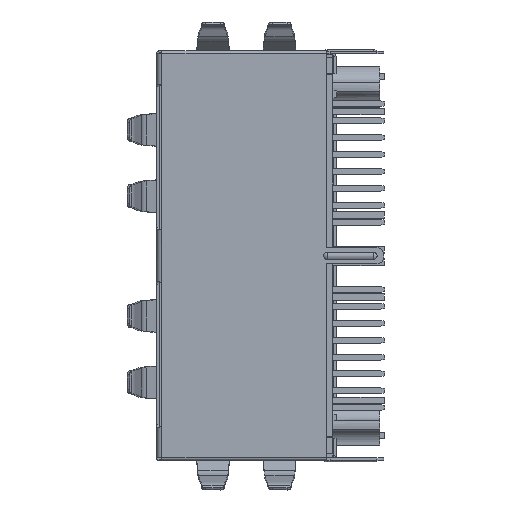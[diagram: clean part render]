
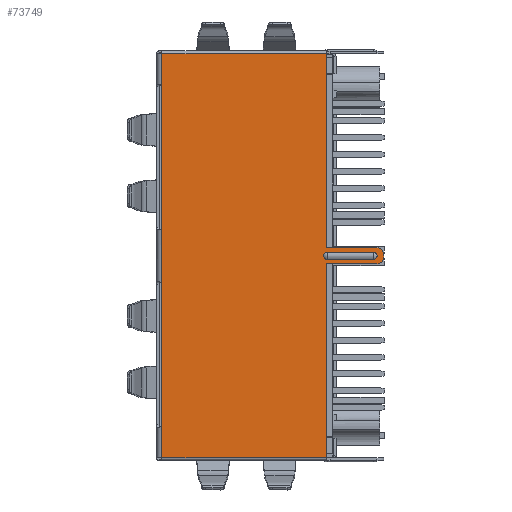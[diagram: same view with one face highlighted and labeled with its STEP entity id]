
A CAD part, top view. The second image highlights one B-rep face of the part: STEP entity #73749.
In plain terms, the highlighted planar face has unit normal (0, 0, -1).
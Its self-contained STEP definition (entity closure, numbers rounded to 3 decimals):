
#64176=DIRECTION('',(0.,-1.,0.));
#64177=VECTOR('',#64176,2.5);
#64178=CARTESIAN_POINT('',(-18.474,30.844,
-0.088));
#64179=LINE('',#64178,#64177);
#64184=CARTESIAN_POINT('',(-2.294,15.544,
-0.088));
#64185=DIRECTION('',(0.,0.,1.));
#64186=DIRECTION('',(0.,-1.,0.));
#64187=AXIS2_PLACEMENT_3D('',#64184,#64185,#64186);
#64189=CARTESIAN_POINT('',(-2.294,15.744,
-0.088));
#64190=DIRECTION('',(0.,0.,1.));
#64191=DIRECTION('',(1.,0.,0.));
#64192=AXIS2_PLACEMENT_3D('',#64189,#64190,#64191);
#64194=CARTESIAN_POINT('',(-2.544,15.644,-0.088));
#64195=DIRECTION('',(0.,0.,-1.));
#64196=DIRECTION('',(1.,0.,0.));
#64197=AXIS2_PLACEMENT_3D('',#64194,#64195,#64196);
#64199=CARTESIAN_POINT('',(-6.044,15.644,-0.088));
#64200=DIRECTION('',(0.,0.,-1.));
#64201=DIRECTION('',(0.,-1.,0.));
#64202=AXIS2_PLACEMENT_3D('',#64199,#64200,#64201);
#64204=CARTESIAN_POINT('',(-6.044,15.644,-0.088));
#64205=DIRECTION('',(0.,0.,-1.));
#64206=DIRECTION('',(-1.,0.,0.));
#64207=AXIS2_PLACEMENT_3D('',#64204,#64205,#64206);
#64209=CARTESIAN_POINT('',(-2.544,15.644,-0.088));
#64210=DIRECTION('',(0.,0.,-1.));
#64211=DIRECTION('',(0.,1.,0.));
#64212=AXIS2_PLACEMENT_3D('',#64209,#64210,#64211);
#64214=DIRECTION('',(0.,-1.,0.));
#64215=VECTOR('',#64214,14.6);
#64216=CARTESIAN_POINT('',(-6.074,30.844,
-0.088));
#64217=LINE('',#64216,#64215);
#64218=DIRECTION('',(1.,0.,0.));
#64219=VECTOR('',#64218,3.78);
#64220=CARTESIAN_POINT('',(-6.074,16.244,
-0.088));
#64221=LINE('',#64220,#64219);
#64234=DIRECTION('',(0.,-1.,0.));
#64235=VECTOR('',#64234,0.2);
#64236=CARTESIAN_POINT('',(-1.794,15.744,
-0.088));
#64237=LINE('',#64236,#64235);
#64250=DIRECTION('',(-1.,0.,0.));
#64251=VECTOR('',#64250,3.78);
#64252=CARTESIAN_POINT('',(-2.294,15.044,
-0.088));
#64253=LINE('',#64252,#64251);
#64262=DIRECTION('',(0.,-1.,0.));
#64263=VECTOR('',#64262,14.6);
#64264=CARTESIAN_POINT('',(-6.074,15.044,
-0.088));
#64265=LINE('',#64264,#64263);
#64376=DIRECTION('',(0.,-1.,0.));
#64377=VECTOR('',#64376,2.5);
#64378=CARTESIAN_POINT('',(-18.474,2.944,
-0.088));
#64379=LINE('',#64378,#64377);
#64407=DIRECTION('',(1.,0.,0.));
#64408=VECTOR('',#64407,12.4);
#64409=CARTESIAN_POINT('',(-18.474,0.444,
-0.088));
#64410=LINE('',#64409,#64408);
#64512=DIRECTION('',(0.,1.,0.));
#64513=VECTOR('',#64512,10.55);
#64514=CARTESIAN_POINT('',(-18.474,2.944,
-0.088));
#64515=LINE('',#64514,#64513);
#64520=DIRECTION('',(0.,1.,0.));
#64521=VECTOR('',#64520,10.55);
#64522=CARTESIAN_POINT('',(-18.474,17.794,
-0.088));
#64523=LINE('',#64522,#64521);
#64559=DIRECTION('',(-1.,0.,0.));
#64560=VECTOR('',#64559,12.4);
#64561=CARTESIAN_POINT('',(-6.074,30.844,
-0.088));
#64562=LINE('',#64561,#64560);
#64783=DIRECTION('',(0.,-1.,0.));
#64784=VECTOR('',#64783,4.3);
#64785=CARTESIAN_POINT('',(-18.474,17.794,
-0.088));
#64786=LINE('',#64785,#64784);
#64799=CARTESIAN_POINT('',(-18.474,17.794,
-0.088));
#64815=DIRECTION('',(-1.,0.,0.));
#64816=VECTOR('',#64815,3.5);
#64817=CARTESIAN_POINT('',(-2.544,15.379,
-0.088));
#64818=LINE('',#64817,#64816);
#64819=DIRECTION('',(1.,0.,0.));
#64820=VECTOR('',#64819,3.5);
#64821=CARTESIAN_POINT('',(-6.044,15.908,
-0.088));
#64822=LINE('',#64821,#64820);
#71771=CARTESIAN_POINT('',(-18.474,30.844,-0.088));
#71772=VERTEX_POINT('',#71771);
#71774=CARTESIAN_POINT('',(-18.474,28.344,-0.088));
#71775=VERTEX_POINT('',#71774);
#71777=VERTEX_POINT('',#64799);
#71779=CARTESIAN_POINT('',(-18.474,13.494,
-0.088));
#71780=VERTEX_POINT('',#71779);
#71781=CARTESIAN_POINT('',(-6.074,30.844,
-0.088));
#71782=CARTESIAN_POINT('',(-6.074,16.244,
-0.088));
#71783=VERTEX_POINT('',#71781);
#71784=VERTEX_POINT('',#71782);
#71785=CARTESIAN_POINT('',(-2.294,16.244,
-0.088));
#71786=VERTEX_POINT('',#71785);
#71787=CARTESIAN_POINT('',(-1.794,15.744,
-0.088));
#71788=VERTEX_POINT('',#71787);
#71789=CARTESIAN_POINT('',(-1.794,15.544,
-0.088));
#71790=VERTEX_POINT('',#71789);
#71791=CARTESIAN_POINT('',(-2.294,15.044,
-0.088));
#71792=VERTEX_POINT('',#71791);
#71793=CARTESIAN_POINT('',(-6.074,15.044,
-0.088));
#71794=VERTEX_POINT('',#71793);
#71795=CARTESIAN_POINT('',(-6.074,0.444,
-0.088));
#71796=VERTEX_POINT('',#71795);
#71797=CARTESIAN_POINT('',(-18.474,0.444,
-0.088));
#71798=VERTEX_POINT('',#71797);
#71799=CARTESIAN_POINT('',(-18.474,2.944,
-0.088));
#71800=VERTEX_POINT('',#71799);
#71801=CARTESIAN_POINT('',(-2.279,15.644,-0.088));
#71802=CARTESIAN_POINT('',(-2.544,15.379,-0.088));
#71803=VERTEX_POINT('',#71801);
#71804=VERTEX_POINT('',#71802);
#71805=CARTESIAN_POINT('',(-2.544,15.908,-0.088));
#71806=VERTEX_POINT('',#71805);
#71807=CARTESIAN_POINT('',(-6.044,15.908,
-0.088));
#71808=VERTEX_POINT('',#71807);
#71809=CARTESIAN_POINT('',(-6.308,15.644,-0.088));
#71810=VERTEX_POINT('',#71809);
#71811=CARTESIAN_POINT('',(-6.044,15.379,-0.088));
#71812=VERTEX_POINT('',#71811);
#73701=CARTESIAN_POINT('',(-10.134,15.644,-0.088));
#73702=DIRECTION('',(0.,0.,1.));
#73703=DIRECTION('',(0.,-1.,0.));
#73704=AXIS2_PLACEMENT_3D('',#73701,#73702,#73703);
#73705=PLANE('',#73704);
#73707=ORIENTED_EDGE('',*,*,#73706,.F.);
#73709=ORIENTED_EDGE('',*,*,#73708,.T.);
#73710=ORIENTED_EDGE('',*,*,#73694,.T.);
#73712=ORIENTED_EDGE('',*,*,#73711,.F.);
#73714=ORIENTED_EDGE('',*,*,#73713,.T.);
#73716=ORIENTED_EDGE('',*,*,#73715,.F.);
#73718=ORIENTED_EDGE('',*,*,#73717,.T.);
#73720=ORIENTED_EDGE('',*,*,#73719,.T.);
#73722=ORIENTED_EDGE('',*,*,#73721,.F.);
#73724=ORIENTED_EDGE('',*,*,#73723,.F.);
#73726=ORIENTED_EDGE('',*,*,#73725,.T.);
#73728=ORIENTED_EDGE('',*,*,#73727,.F.);
#73730=ORIENTED_EDGE('',*,*,#73729,.T.);
#73732=ORIENTED_EDGE('',*,*,#73731,.F.);
#73733=EDGE_LOOP('',(#73707,#73709,#73710,#73712,#73714,#73716,#73718,#73720,
#73722,#73724,#73726,#73728,#73730,#73732));
#73734=FACE_OUTER_BOUND('',#73733,.F.);
#73736=ORIENTED_EDGE('',*,*,#73735,.T.);
#73738=ORIENTED_EDGE('',*,*,#73737,.T.);
#73740=ORIENTED_EDGE('',*,*,#73739,.T.);
#73742=ORIENTED_EDGE('',*,*,#73741,.T.);
#73744=ORIENTED_EDGE('',*,*,#73743,.T.);
#73746=ORIENTED_EDGE('',*,*,#73745,.T.);
#73747=EDGE_LOOP('',(#73736,#73738,#73740,#73742,#73744,#73746));
#73748=FACE_BOUND('',#73747,.F.);
#64188=CIRCLE('',#64187,0.5);
#64193=CIRCLE('',#64192,0.5);
#64198=CIRCLE('',#64197,0.265);
#64203=CIRCLE('',#64202,0.265);
#64208=CIRCLE('',#64207,0.265);
#64213=CIRCLE('',#64212,0.265);
#73694=EDGE_CURVE('',#71772,#71775,#64179,.T.);
#73706=EDGE_CURVE('',#71783,#71784,#64217,.T.);
#73708=EDGE_CURVE('',#71783,#71772,#64562,.T.);
#73711=EDGE_CURVE('',#71777,#71775,#64523,.T.);
#73713=EDGE_CURVE('',#71777,#71780,#64786,.T.);
#73715=EDGE_CURVE('',#71800,#71780,#64515,.T.);
#73717=EDGE_CURVE('',#71800,#71798,#64379,.T.);
#73719=EDGE_CURVE('',#71798,#71796,#64410,.T.);
#73721=EDGE_CURVE('',#71794,#71796,#64265,.T.);
#73723=EDGE_CURVE('',#71792,#71794,#64253,.T.);
#73725=EDGE_CURVE('',#71792,#71790,#64188,.T.);
#73727=EDGE_CURVE('',#71788,#71790,#64237,.T.);
#73729=EDGE_CURVE('',#71788,#71786,#64193,.T.);
#73731=EDGE_CURVE('',#71784,#71786,#64221,.T.);
#73735=EDGE_CURVE('',#71803,#71804,#64198,.T.);
#73737=EDGE_CURVE('',#71804,#71812,#64818,.T.);
#73739=EDGE_CURVE('',#71812,#71810,#64203,.T.);
#73741=EDGE_CURVE('',#71810,#71808,#64208,.T.);
#73743=EDGE_CURVE('',#71808,#71806,#64822,.T.);
#73745=EDGE_CURVE('',#71806,#71803,#64213,.T.);
#73749=ADVANCED_FACE('',(#73734,#73748),#73705,.F.);
